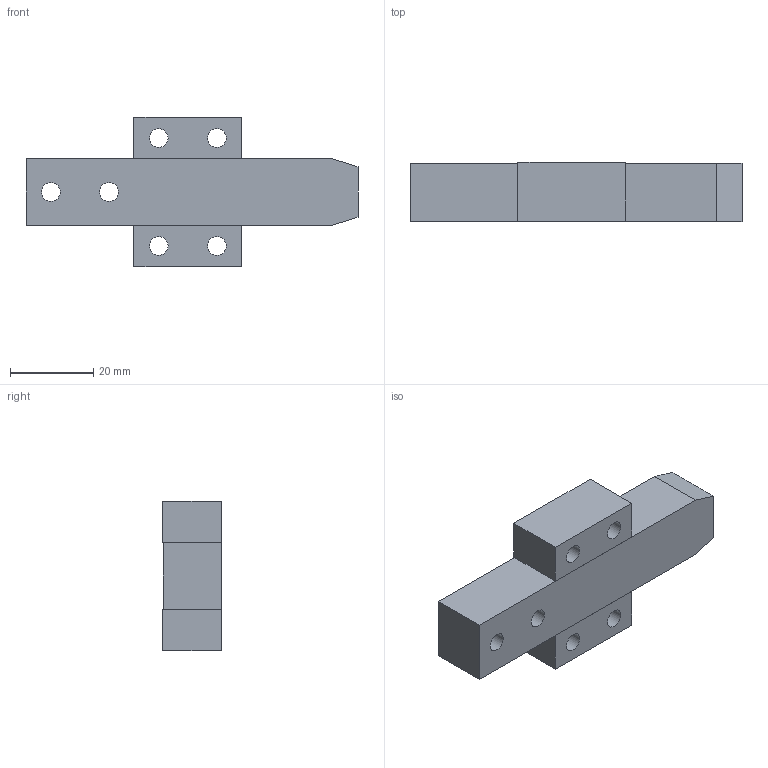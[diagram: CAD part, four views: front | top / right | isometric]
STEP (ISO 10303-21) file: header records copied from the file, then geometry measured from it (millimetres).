
FILE_DESCRIPTION(/* description */ ('STEP AP214'),/* implementation_level */ '2;1');
FILE_NAME(/* name */ 'F1320016010054',/* time_stamp */ '2024-09-18T15:08:58+02:00',/* author */ ('License CC BY-ND 4.0'),/* organization */ ('CADENAS'),/* preprocessor_version */ 'ST-DEVELOPER v19.3',/* originating_system */ 'PARTsolutions',/* authorisation */ ' ');
FILE_SCHEMA (('AUTOMOTIVE_DESIGN {1 0 10303 214 3 1 1}'));
Length unit declared in the file: millimetre
Products named in the file (3): F1320016010054; F1323016080; F1321026010
Assembly tree (3 placements, depth 2):
  F1320016010054
    F1323016080
    F1321026010  x2
Bounding box: 80 x 14.2 x 36 mm (x, y, z)
Volume: 23026.5 mm3; surface area: 9526.1 mm2
Topology: 3 solids, 3 shells, 38 faces, 78 edges, 52 vertices
Faces by surface type: plane 26, cylinder 12
Full cylindrical faces by diameter (mm): 4.5 x6, 7.5 x6
Entity records: 754 total; most frequent: DIRECTION 122, CARTESIAN_POINT 112, ORIENTED_EDGE 92, EDGE_CURVE 46, EDGE_LOOP 46, FACE_BOUND 46, AXIS2_PLACEMENT_3D 46, VERTEX_POINT 36
